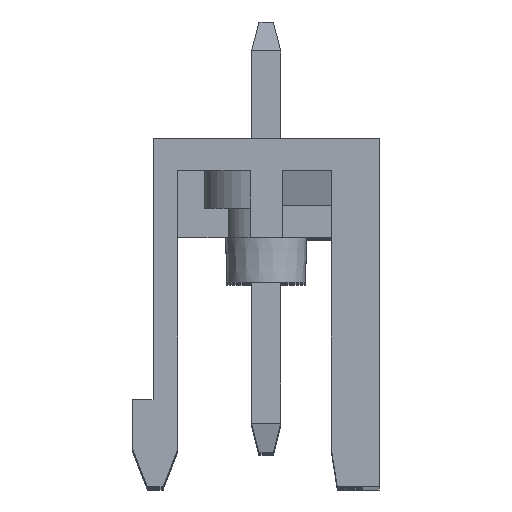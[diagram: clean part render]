
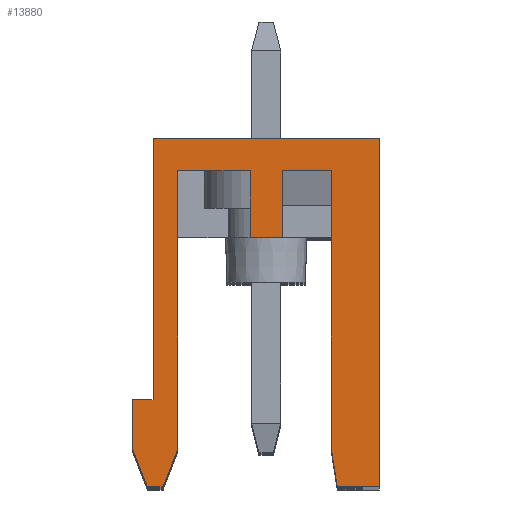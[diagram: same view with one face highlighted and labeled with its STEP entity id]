
A CAD part, top view. The second image highlights one B-rep face of the part: STEP entity #13880.
In plain terms, the highlighted planar face has unit normal (0, 0, 1).
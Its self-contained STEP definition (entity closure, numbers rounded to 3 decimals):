
#144 = VECTOR ( 'NONE', #3020, 1000. ) ;
#161 = VECTOR ( 'NONE', #25847, 1000. ) ;
#313 = ORIENTED_EDGE ( 'NONE', *, *, #6398, .T. ) ;
#529 = CARTESIAN_POINT ( 'NONE',  ( -3.9, 3., 60.96 ) ) ;
#920 = PLANE ( 'NONE',  #13974 ) ;
#1438 = CARTESIAN_POINT ( 'NONE',  ( -3.9, 12., 60.96 ) ) ;
#2579 = VERTEX_POINT ( 'NONE', #6001 ) ;
#2865 = DIRECTION ( 'NONE',  ( 1., 0., 0. ) ) ;
#3020 = DIRECTION ( 'NONE',  ( -0.359, 0.933, 0. ) ) ;
#3117 = CARTESIAN_POINT ( 'NONE',  ( -4.6, 1.3, 60.96 ) ) ;
#3158 = DIRECTION ( 'NONE',  ( -0.359, -0.933, 0. ) ) ;
#3223 = ORIENTED_EDGE ( 'NONE', *, *, #10128, .T. ) ;
#3371 = EDGE_CURVE ( 'NONE', #16903, #13917, #15672, .T. ) ;
#3737 = LINE ( 'NONE', #11080, #4796 ) ;
#3806 = CARTESIAN_POINT ( 'NONE',  ( 2.25, 10.9, 60.96 ) ) ;
#4535 = EDGE_CURVE ( 'NONE', #24135, #20044, #19522, .T. ) ;
#4667 = VECTOR ( 'NONE', #25120, 1000. ) ;
#4796 = VECTOR ( 'NONE', #20502, 1000. ) ;
#5724 = CARTESIAN_POINT ( 'NONE',  ( 3.9, 0., 60.96 ) ) ;
#6001 = CARTESIAN_POINT ( 'NONE',  ( 0.55, 10.9, 60.96 ) ) ;
#6327 = ORIENTED_EDGE ( 'NONE', *, *, #18273, .F. ) ;
#6398 = EDGE_CURVE ( 'NONE', #13917, #24354, #12145, .T. ) ;
#6491 = CARTESIAN_POINT ( 'NONE',  ( -4.6, 3., 60.96 ) ) ;
#6601 = VERTEX_POINT ( 'NONE', #5724 ) ;
#6634 = EDGE_CURVE ( 'NONE', #20044, #17186, #15353, .T. ) ;
#6741 = CARTESIAN_POINT ( 'NONE',  ( 0.55, 8.6, 60.96 ) ) ;
#7034 = VERTEX_POINT ( 'NONE', #25306 ) ;
#7201 = LINE ( 'NONE', #6741, #8965 ) ;
#7495 = VERTEX_POINT ( 'NONE', #11701 ) ;
#7559 = LINE ( 'NONE', #9837, #161 ) ;
#7706 = EDGE_CURVE ( 'NONE', #6601, #28620, #24029, .T. ) ;
#7853 = DIRECTION ( 'NONE',  ( 0., 1., 0. ) ) ;
#7929 = DIRECTION ( 'NONE',  ( 0., -1., 0. ) ) ;
#8241 = LINE ( 'NONE', #28980, #29805 ) ;
#8286 = VERTEX_POINT ( 'NONE', #25657 ) ;
#8362 = ORIENTED_EDGE ( 'NONE', *, *, #23578, .T. ) ;
#8381 = DIRECTION ( 'NONE',  ( 0., -1., 0. ) ) ;
#8944 = EDGE_CURVE ( 'NONE', #28620, #16903, #3737, .T. ) ;
#8965 = VECTOR ( 'NONE', #9495, 1000. ) ;
#8997 = VECTOR ( 'NONE', #2865, 1000. ) ;
#9041 = VECTOR ( 'NONE', #28756, 1000. ) ;
#9495 = DIRECTION ( 'NONE',  ( -1., 0., 0. ) ) ;
#9497 = EDGE_CURVE ( 'NONE', #8286, #18957, #7201, .T. ) ;
#9837 = CARTESIAN_POINT ( 'NONE',  ( -0.55, 10.9, 60.96 ) ) ;
#9905 = ORIENTED_EDGE ( 'NONE', *, *, #6634, .T. ) ;
#10025 = CARTESIAN_POINT ( 'NONE',  ( 2.25, 1.3, 60.96 ) ) ;
#10054 = VECTOR ( 'NONE', #20055, 1000. ) ;
#10063 = ORIENTED_EDGE ( 'NONE', *, *, #13130, .T. ) ;
#10100 = FACE_OUTER_BOUND ( 'NONE', #12802, .T. ) ;
#10128 = EDGE_CURVE ( 'NONE', #19961, #27951, #13900, .T. ) ;
#10215 = EDGE_CURVE ( 'NONE', #7034, #27951, #17066, .T. ) ;
#10232 = DIRECTION ( 'NONE',  ( 0., -1., 0. ) ) ;
#10243 = DIRECTION ( 'NONE',  ( 1., 0., 0. ) ) ;
#10596 = CARTESIAN_POINT ( 'NONE',  ( -0.55, 10.9, 60.96 ) ) ;
#10735 = LINE ( 'NONE', #13500, #26816 ) ;
#11037 = VECTOR ( 'NONE', #12289, 1000. ) ;
#11080 = CARTESIAN_POINT ( 'NONE',  ( 3.9, 12., 60.96 ) ) ;
#11326 = VECTOR ( 'NONE', #10232, 1000. ) ;
#11701 = CARTESIAN_POINT ( 'NONE',  ( -3.05, 10.9, 60.96 ) ) ;
#11751 = CARTESIAN_POINT ( 'NONE',  ( 2.25, 10.9, 60.96 ) ) ;
#12145 = LINE ( 'NONE', #529, #11037 ) ;
#12289 = DIRECTION ( 'NONE',  ( -1., 0., 0. ) ) ;
#12462 = CARTESIAN_POINT ( 'NONE',  ( -3.55, 0., 60.96 ) ) ;
#12802 = EDGE_LOOP ( 'NONE', ( #14945, #27461, #20155, #313, #18875, #27716, #3223, #13376, #6327, #28064, #16005, #14125, #8362, #10063, #23928, #9905, #16137 ) ) ;
#12925 = LINE ( 'NONE', #29213, #9041 ) ;
#13056 = CARTESIAN_POINT ( 'NONE',  ( 2.25, 1.3, 60.96 ) ) ;
#13130 = EDGE_CURVE ( 'NONE', #2579, #24135, #12925, .T. ) ;
#13376 = ORIENTED_EDGE ( 'NONE', *, *, #10215, .F. ) ;
#13500 = CARTESIAN_POINT ( 'NONE',  ( 0.55, 8.6, 60.96 ) ) ;
#13880 = ADVANCED_FACE ( 'NONE', ( #10100 ), #920, .T. ) ;
#13900 = LINE ( 'NONE', #27736, #8997 ) ;
#13917 = VERTEX_POINT ( 'NONE', #30014 ) ;
#13974 = AXIS2_PLACEMENT_3D ( 'NONE', #24132, #24275, #10243 ) ;
#14125 = ORIENTED_EDGE ( 'NONE', *, *, #9497, .F. ) ;
#14877 = VECTOR ( 'NONE', #7929, 1000. ) ;
#14945 = ORIENTED_EDGE ( 'NONE', *, *, #7706, .T. ) ;
#15353 = LINE ( 'NONE', #13056, #10054 ) ;
#15672 = LINE ( 'NONE', #29677, #4667 ) ;
#16005 = ORIENTED_EDGE ( 'NONE', *, *, #29664, .T. ) ;
#16137 = ORIENTED_EDGE ( 'NONE', *, *, #29130, .T. ) ;
#16545 = CARTESIAN_POINT ( 'NONE',  ( 2.45, 0., 60.96 ) ) ;
#16640 = DIRECTION ( 'NONE',  ( 0., -1., 0. ) ) ;
#16809 = LINE ( 'NONE', #21371, #11326 ) ;
#16903 = VERTEX_POINT ( 'NONE', #1438 ) ;
#17066 = LINE ( 'NONE', #24231, #17263 ) ;
#17131 = CARTESIAN_POINT ( 'NONE',  ( -0.55, 8.6, 60.96 ) ) ;
#17186 = VERTEX_POINT ( 'NONE', #16545 ) ;
#17263 = VECTOR ( 'NONE', #3158, 1000. ) ;
#17512 = CARTESIAN_POINT ( 'NONE',  ( 3.9, 12., 60.96 ) ) ;
#18273 = EDGE_CURVE ( 'NONE', #7495, #7034, #16809, .T. ) ;
#18356 = EDGE_CURVE ( 'NONE', #24354, #27938, #8241, .T. ) ;
#18875 = ORIENTED_EDGE ( 'NONE', *, *, #18356, .T. ) ;
#18957 = VERTEX_POINT ( 'NONE', #17131 ) ;
#19469 = CARTESIAN_POINT ( 'NONE',  ( 3.9, 0., 60.96 ) ) ;
#19522 = LINE ( 'NONE', #3806, #14877 ) ;
#19587 = CARTESIAN_POINT ( 'NONE',  ( 2.45, 0., 60.96 ) ) ;
#19961 = VERTEX_POINT ( 'NONE', #22091 ) ;
#20044 = VERTEX_POINT ( 'NONE', #10025 ) ;
#20055 = DIRECTION ( 'NONE',  ( 0.152, -0.988, 0. ) ) ;
#20155 = ORIENTED_EDGE ( 'NONE', *, *, #3371, .T. ) ;
#20342 = DIRECTION ( 'NONE',  ( 0., 1., 0. ) ) ;
#20502 = DIRECTION ( 'NONE',  ( -1., 0., 0. ) ) ;
#21371 = CARTESIAN_POINT ( 'NONE',  ( -3.05, 10.9, 60.96 ) ) ;
#22091 = CARTESIAN_POINT ( 'NONE',  ( -4.1, 0., 60.96 ) ) ;
#23578 = EDGE_CURVE ( 'NONE', #8286, #2579, #10735, .T. ) ;
#23651 = CARTESIAN_POINT ( 'NONE',  ( -0.55, 10.9, 60.96 ) ) ;
#23928 = ORIENTED_EDGE ( 'NONE', *, *, #4535, .T. ) ;
#24029 = LINE ( 'NONE', #19469, #26647 ) ;
#24100 = CARTESIAN_POINT ( 'NONE',  ( -4.1, 0., 60.96 ) ) ;
#24132 = CARTESIAN_POINT ( 'NONE',  ( -10.2, 16.267, 60.96 ) ) ;
#24135 = VERTEX_POINT ( 'NONE', #11751 ) ;
#24180 = DIRECTION ( 'NONE',  ( 1., 0., 0. ) ) ;
#24231 = CARTESIAN_POINT ( 'NONE',  ( -3.05, 1.3, 60.96 ) ) ;
#24275 = DIRECTION ( 'NONE',  ( 0., 0., 1. ) ) ;
#24354 = VERTEX_POINT ( 'NONE', #6491 ) ;
#25045 = VECTOR ( 'NONE', #16640, 1000. ) ;
#25120 = DIRECTION ( 'NONE',  ( 0., -1., 0. ) ) ;
#25306 = CARTESIAN_POINT ( 'NONE',  ( -3.05, 1.3, 60.96 ) ) ;
#25483 = LINE ( 'NONE', #24100, #144 ) ;
#25657 = CARTESIAN_POINT ( 'NONE',  ( 0.55, 8.6, 60.96 ) ) ;
#25847 = DIRECTION ( 'NONE',  ( -1., 0., 0. ) ) ;
#25940 = EDGE_CURVE ( 'NONE', #19961, #27938, #25483, .T. ) ;
#26647 = VECTOR ( 'NONE', #7853, 1000. ) ;
#26816 = VECTOR ( 'NONE', #20342, 1000. ) ;
#27461 = ORIENTED_EDGE ( 'NONE', *, *, #8944, .T. ) ;
#27716 = ORIENTED_EDGE ( 'NONE', *, *, #25940, .F. ) ;
#27736 = CARTESIAN_POINT ( 'NONE',  ( -4.1, 0., 60.96 ) ) ;
#27938 = VERTEX_POINT ( 'NONE', #3117 ) ;
#27951 = VERTEX_POINT ( 'NONE', #12462 ) ;
#28064 = ORIENTED_EDGE ( 'NONE', *, *, #28950, .F. ) ;
#28355 = LINE ( 'NONE', #23651, #25045 ) ;
#28620 = VERTEX_POINT ( 'NONE', #17512 ) ;
#28756 = DIRECTION ( 'NONE',  ( 1., 0., 0. ) ) ;
#28873 = VECTOR ( 'NONE', #24180, 1000. ) ;
#28950 = EDGE_CURVE ( 'NONE', #29105, #7495, #7559, .T. ) ;
#28980 = CARTESIAN_POINT ( 'NONE',  ( -4.6, 3., 60.96 ) ) ;
#29105 = VERTEX_POINT ( 'NONE', #10596 ) ;
#29130 = EDGE_CURVE ( 'NONE', #17186, #6601, #29331, .T. ) ;
#29213 = CARTESIAN_POINT ( 'NONE',  ( 0.55, 10.9, 60.96 ) ) ;
#29331 = LINE ( 'NONE', #19587, #28873 ) ;
#29664 = EDGE_CURVE ( 'NONE', #29105, #18957, #28355, .T. ) ;
#29677 = CARTESIAN_POINT ( 'NONE',  ( -3.9, 12., 60.96 ) ) ;
#29805 = VECTOR ( 'NONE', #8381, 1000. ) ;
#30014 = CARTESIAN_POINT ( 'NONE',  ( -3.9, 3., 60.96 ) ) ;
